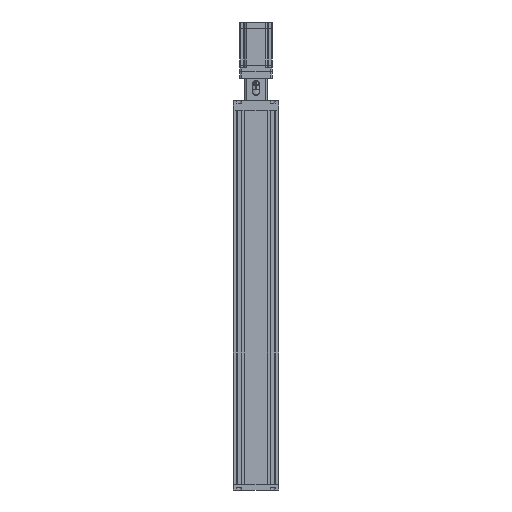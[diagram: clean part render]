
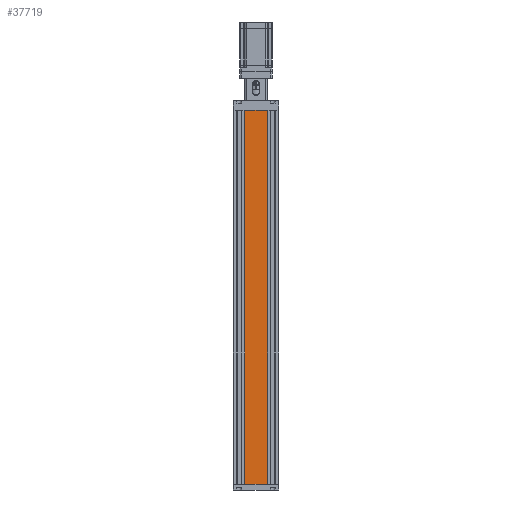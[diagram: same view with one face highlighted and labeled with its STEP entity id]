
A CAD part, front view. The second image highlights one B-rep face of the part: STEP entity #37719.
In plain terms, the highlighted planar face has unit normal (0, -1, 0).
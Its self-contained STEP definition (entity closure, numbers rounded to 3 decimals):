
#763 = DIRECTION ( 'NONE',  ( -1., 0., 0. ) ) ;
#3174 = VECTOR ( 'NONE', #75244, 1000. ) ;
#3591 = FACE_OUTER_BOUND ( 'NONE', #55389, .T. ) ;
#5431 = CARTESIAN_POINT ( 'NONE',  ( -30., -29.2, -490. ) ) ;
#7986 = CARTESIAN_POINT ( 'NONE',  ( 30., -29.2, -490. ) ) ;
#9732 = VECTOR ( 'NONE', #43230, 1000. ) ;
#9809 = EDGE_CURVE ( 'NONE', #28150, #72735, #58674, .T. ) ;
#13028 = VECTOR ( 'NONE', #70132, 1000. ) ;
#16429 = CARTESIAN_POINT ( 'NONE',  ( -30., -29.2, -490. ) ) ;
#22823 = EDGE_CURVE ( 'NONE', #76205, #72735, #32499, .T. ) ;
#24053 = CARTESIAN_POINT ( 'NONE',  ( 30., -29.2, 490. ) ) ;
#26241 = LINE ( 'NONE', #5431, #63300 ) ;
#27995 = CARTESIAN_POINT ( 'NONE',  ( -30., -29.2, -490. ) ) ;
#28150 = VERTEX_POINT ( 'NONE', #24053 ) ;
#28260 = ORIENTED_EDGE ( 'NONE', *, *, #9809, .T. ) ;
#30097 = LINE ( 'NONE', #7986, #9732 ) ;
#32058 = EDGE_CURVE ( 'NONE', #40914, #28150, #30097, .T. ) ;
#32499 = LINE ( 'NONE', #27995, #13028 ) ;
#34309 = PLANE ( 'NONE',  #57680 ) ;
#34540 = EDGE_CURVE ( 'NONE', #40914, #76205, #26241, .T. ) ;
#37314 = CARTESIAN_POINT ( 'NONE',  ( 30., -29.2, -490. ) ) ;
#37378 = ORIENTED_EDGE ( 'NONE', *, *, #32058, .T. ) ;
#37719 = ADVANCED_FACE ( 'NONE', ( #3591 ), #34309, .F. ) ;
#39288 = CARTESIAN_POINT ( 'NONE',  ( -30., -29.2, -490. ) ) ;
#40395 = ORIENTED_EDGE ( 'NONE', *, *, #34540, .F. ) ;
#40914 = VERTEX_POINT ( 'NONE', #37314 ) ;
#43230 = DIRECTION ( 'NONE',  ( 0., 0., 1. ) ) ;
#46228 = DIRECTION ( 'NONE',  ( 0., 1., 0. ) ) ;
#46966 = ORIENTED_EDGE ( 'NONE', *, *, #22823, .F. ) ;
#55389 = EDGE_LOOP ( 'NONE', ( #46966, #40395, #37378, #28260 ) ) ;
#57680 = AXIS2_PLACEMENT_3D ( 'NONE', #16429, #46228, #58340 ) ;
#58340 = DIRECTION ( 'NONE',  ( 0., 0., 1. ) ) ;
#58595 = CARTESIAN_POINT ( 'NONE',  ( -30., -29.2, 490. ) ) ;
#58674 = LINE ( 'NONE', #60806, #3174 ) ;
#60806 = CARTESIAN_POINT ( 'NONE',  ( -30., -29.2, 490. ) ) ;
#63300 = VECTOR ( 'NONE', #763, 1000. ) ;
#70132 = DIRECTION ( 'NONE',  ( 0., 0., 1. ) ) ;
#72735 = VERTEX_POINT ( 'NONE', #58595 ) ;
#75244 = DIRECTION ( 'NONE',  ( -1., 0., 0. ) ) ;
#76205 = VERTEX_POINT ( 'NONE', #39288 ) ;
